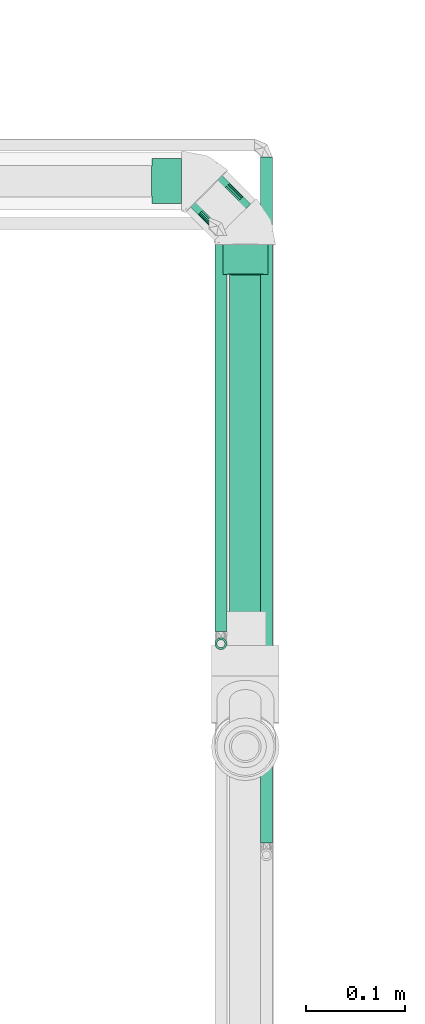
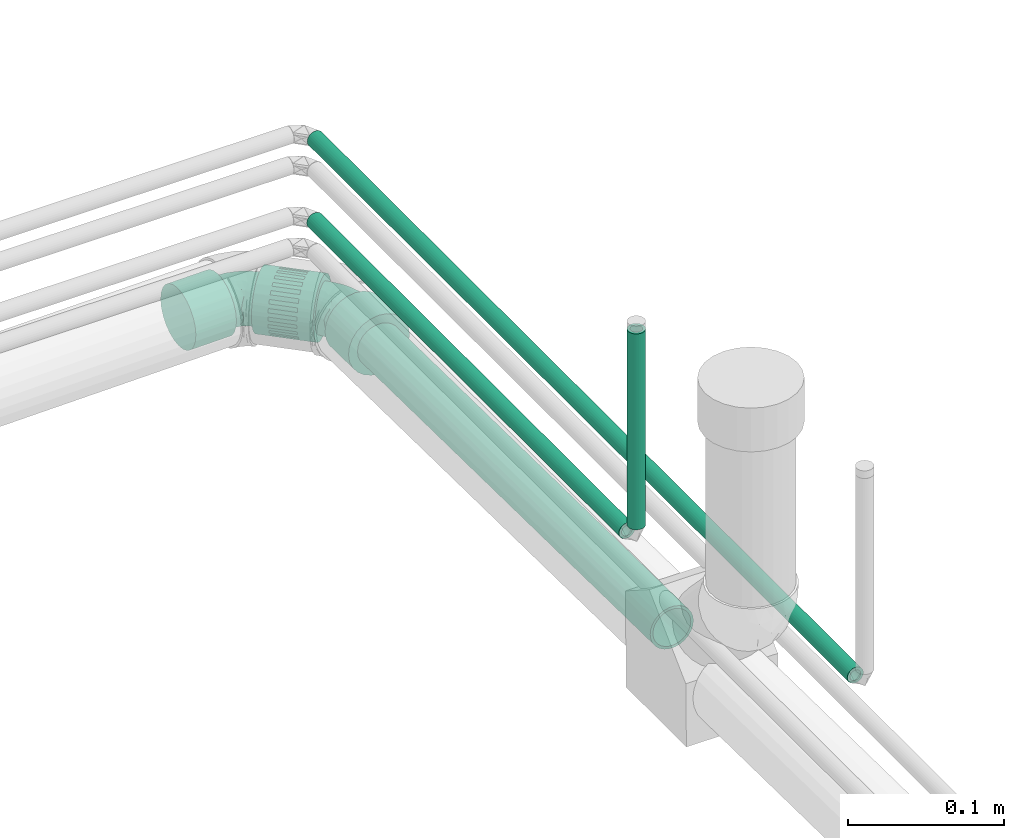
# One storey, part 50 of 108: 4 flow segments, 2 flow fittings.
"""IFC2X3 building model written with IfcOpenShell, lengths in millimetres."""

import ifcopenshell
import ifcopenshell.guid

model = None  # the IFC model being written
_history = None  # IfcOwnerHistory: only IFC2X3 demands one
_inside = {}  # id of a spatial element -> (the spatial element, [elements in it])
_under = {}  # id of a project, library or spatial element -> (it, [spatial elements below it])
_declared = {}  # id of a project -> (the project, [libraries it declares])
_typed = {}  # id of a type object -> (the type object, [elements of that type])
_made_of = {}  # id of a material, layer set ... -> (it, [elements and type objects made of it])


def new_model(schema):
    """Start an empty IFC model of exactly this schema.

    Asked for "IFC4X3", IfcOpenShell would pick the latest addendum, in which some entities
    have other attributes; the version numbers below select the first issue.
    IFC2X3 requires an IfcOwnerHistory on every rooted entity: one is made here for all.
    """
    global model, _history
    if schema == "IFC4X3":
        model = ifcopenshell.file(schema_version=(4, 3, 0, 0))
    else:
        model = ifcopenshell.file(schema=schema)
    _inside.clear()
    _under.clear()
    _declared.clear()
    _typed.clear()
    _made_of.clear()
    _history = None
    if model.schema == "IFC2X3":
        org = make("IfcOrganization", Name="unknown")
        user = make(
            "IfcPersonAndOrganization",
            ThePerson=make("IfcPerson", FamilyName="unknown"),
            TheOrganization=org,
        )
        app = make(
            "IfcApplication",
            ApplicationDeveloper=org,
            Version="unknown",
            ApplicationFullName="unknown",
            ApplicationIdentifier="unknown",
        )
        _history = make(
            "IfcOwnerHistory",
            OwningUser=user,
            OwningApplication=app,
            ChangeAction="ADDED",
            CreationDate=0,
        )
    return model


def make(cls, **values):
    """One entity of the class cls with the attributes given. An attribute that is None is left unset."""
    return model.create_entity(
        cls, **{name: value for name, value in values.items() if value is not None}
    )


def entity(cls, *values):
    """Any entity or typed value of the class cls, its attributes in the order of the schema. None: left unset."""
    e = model.create_entity(cls)
    for i, value in enumerate(values):
        if value is not None:
            e[i] = value
    return e


def rooted(cls, **values):
    """An entity with a GlobalId (a new one), such as an element, a storey or a relation."""
    return make(cls, GlobalId=ifcopenshell.guid.new(), OwnerHistory=_history, **values)


def si_unit(unit_type, name, prefix=None):
    """IfcSIUnit, for example si_unit("LENGTHUNIT", "METRE", prefix="MILLI")."""
    return make("IfcSIUnit", UnitType=unit_type, Prefix=prefix, Name=name)


def converted_unit(unit_type, name, factor, base, dimensions=None, offset=None):
    """IfcConversionBasedUnit, such as the inch: factor (a typed value) times the base unit."""
    return make(
        "IfcConversionBasedUnit"
        if offset is None
        else "IfcConversionBasedUnitWithOffset",
        ConversionOffset=offset,
        Dimensions=None
        if dimensions is None
        else entity("IfcDimensionalExponents", *dimensions),
        UnitType=unit_type,
        Name=name,
        ConversionFactor=make(
            "IfcMeasureWithUnit", ValueComponent=factor, UnitComponent=base
        ),
    )


def derived_unit(unit_type, elements):
    """IfcDerivedUnit: a product of units, each with its exponent."""
    return make(
        "IfcDerivedUnit",
        Elements=[
            make("IfcDerivedUnitElement", Unit=unit, Exponent=power)
            for unit, power in elements
        ],
        UnitType=unit_type,
    )


def assignment(units):
    """IfcUnitAssignment: the units of a project."""
    return None if units is None else make("IfcUnitAssignment", Units=units)


def point(xyz):
    """IfcCartesianPoint."""
    return None if xyz is None else make("IfcCartesianPoint", Coordinates=xyz)


def direction(xyz):
    """IfcDirection."""
    return None if xyz is None else make("IfcDirection", DirectionRatios=xyz)


def frame(location, z_axis=None, x_axis=None):
    """IfcAxis2Placement3D, a coordinate frame: its origin and axes. An axis left out is left unset."""
    return make(
        "IfcAxis2Placement3D",
        Location=point(location),
        Axis=direction(z_axis),
        RefDirection=direction(x_axis),
    )


def frame_2d(location, x_axis=None):
    """IfcAxis2Placement2D, a coordinate frame in the plane: its origin and x axis."""
    return make(
        "IfcAxis2Placement2D", Location=point(location), RefDirection=direction(x_axis)
    )


def origin_with_axes():
    """The frame at (0, 0, 0) with the z axis (0, 0, 1) and the x axis (1, 0, 0) written out."""
    return frame((0.0, 0.0, 0.0), z_axis=(0.0, 0.0, 1.0), x_axis=(1.0, 0.0, 0.0))


def origin_2d_with_axis():
    """The frame at (0, 0) in the plane with the x axis (1, 0) written out."""
    return frame_2d((0.0, 0.0), x_axis=(1.0, 0.0))


def place(relative_to, where):
    """IfcLocalPlacement: puts the frame where relative to a parent placement (None: the world)."""
    return make(
        "IfcLocalPlacement", PlacementRelTo=relative_to, RelativePlacement=where
    )


def context(
    kind, dimensions, precision=None, world=None, true_north=None, identifier=None
):
    """IfcGeometricRepresentationContext, for example the 3D "Model" context."""
    return make(
        "IfcGeometricRepresentationContext",
        ContextIdentifier=identifier,
        ContextType=kind,
        CoordinateSpaceDimension=dimensions,
        Precision=precision,
        WorldCoordinateSystem=world,
        TrueNorth=true_north,
    )


def subcontext(parent, identifier, kind, view, scale=None):
    """IfcGeometricRepresentationSubContext, for example "Body" below "Model"."""
    return make(
        "IfcGeometricRepresentationSubContext",
        ContextIdentifier=identifier,
        ContextType=kind,
        ParentContext=parent,
        TargetScale=scale,
        TargetView=view,
    )


def project(units=None, contexts=None):
    """IfcProject with its units and contexts."""
    return rooted(
        "IfcProject",
        Name="project",
        RepresentationContexts=contexts,
        UnitsInContext=assignment(units),
    )


def spatial(cls, under=None, at=None, **own):
    """A site, building, storey or space (cls), placed at a placement, below another one or the project."""
    s = rooted(cls, ObjectPlacement=at, **own)
    if under is not None:
        _under.setdefault(under.id(), (under, []))[1].append(s)
    return s


def profile(cls, at=None, kind="AREA", **sizes):
    """A parametric profile (cls). Its sizes go by their IFC names, for example OverallWidth=200.0."""
    return make(cls, ProfileType=kind, Position=at, **sizes)


def hollow_circle(**sizes):
    """IfcCircleHollowProfileDef."""
    return profile("IfcCircleHollowProfileDef", **sizes)


def extrude(swept, where, along, depth):
    """IfcExtrudedAreaSolid: the profile swept, set in the frame where, extruded along a direction by depth."""
    return make(
        "IfcExtrudedAreaSolid",
        SweptArea=swept,
        Position=where,
        ExtrudedDirection=direction(along),
        Depth=depth,
    )


def faces_of(points, faces, orient=None, outer=None):
    """IfcFace entities. A face is a list of loops; a loop is a list of indices into points, from 0.

    orient and outer hold one flag for each loop. By default every Orientation is true, the
    first loop of a face is its IfcFaceOuterBound and the others are IfcFaceBound.
    """
    made = []
    for i, loops in enumerate(faces):
        bounds = []
        for j, loop in enumerate(loops):
            is_outer = j == 0 if outer is None else outer[i][j]
            bounds.append(
                make(
                    "IfcFaceOuterBound" if is_outer else "IfcFaceBound",
                    Bound=make("IfcPolyLoop", Polygon=[points[k] for k in loop]),
                    Orientation=True if orient is None else orient[i][j],
                )
            )
        made.append(make("IfcFace", Bounds=bounds))
    return made


def open_shell(faces, orient=None, outer=None):
    """The faces of one IfcOpenShell. surface_model builds it on its shared points."""
    return ("IfcOpenShell", faces, orient, outer)


def surface_model(cls, points, shells):
    """IfcFaceBasedSurfaceModel or IfcShellBasedSurfaceModel (cls): surfaces that need not close."""
    shared = [point(p) for p in points]
    made = [make(c, CfsFaces=faces_of(shared, fs, o, b)) for c, fs, o, b in shells]
    if cls == "IfcFaceBasedSurfaceModel":
        return make(cls, FbsmFaces=made)
    return make(cls, SbsmBoundary=made)


def shape(context_of_items, identifier, shape_type, items):
    """IfcShapeRepresentation: the items that make up one representation, for example the "Body"."""
    return make(
        "IfcShapeRepresentation",
        ContextOfItems=context_of_items,
        RepresentationIdentifier=identifier,
        RepresentationType=shape_type,
        Items=items,
    )


def source(mapping_origin, context_of_items, identifier, shape_type, items):
    """IfcRepresentationMap: a shape defined once, which mapped items show again and again."""
    return make(
        "IfcRepresentationMap",
        MappingOrigin=mapping_origin,
        MappedRepresentation=shape(context_of_items, identifier, shape_type, items),
    )


def transform(
    local_origin,
    x_axis=None,
    y_axis=None,
    z_axis=None,
    scale=None,
    scale2=None,
    scale3=None,
    uniform=True,
):
    """IfcCartesianTransformationOperator3D, or its non-uniform kind. x_axis, y_axis, z_axis: its Axis1, 2, 3."""
    if uniform:
        return make(
            "IfcCartesianTransformationOperator3D",
            Axis1=direction(x_axis),
            Axis2=direction(y_axis),
            LocalOrigin=point(local_origin),
            Scale=scale,
            Axis3=direction(z_axis),
        )
    return make(
        "IfcCartesianTransformationOperator3DnonUniform",
        Axis1=direction(x_axis),
        Axis2=direction(y_axis),
        LocalOrigin=point(local_origin),
        Scale=scale,
        Axis3=direction(z_axis),
        Scale2=scale2,
        Scale3=scale3,
    )


def mapped(mapping_source, mapping_target):
    """IfcMappedItem: shows the shape of a source again, moved by a transform."""
    return make(
        "IfcMappedItem", MappingSource=mapping_source, MappingTarget=mapping_target
    )


def made_of(thing, what):
    """Note that an element or type object is made of a material, layer set ...; save() writes the relation."""
    if what is not None:
        _made_of.setdefault(what.id(), (what, []))[1].append(thing)
    return thing


def type_object(cls, material=None, **own):
    """A type object (cls), such as IfcWallType, which elements share."""
    return made_of(rooted(cls, **own), material)


def element(
    cls,
    number,
    at=None,
    inside=None,
    cuts=None,
    type_object=None,
    material=None,
    context=None,
    identifier="Body",
    shape_type=None,
    held_by="IfcProductDefinitionShape",
    body=None,
    shapes=None,
    **own,
):
    """One element of the class cls, such as IfcWall. Its Tag is "e" and its number.

    at: its placement. inside: the storey or other place that contains it. cuts: it is an
    opening in that element (IfcRelVoidsElement). A single representation is given by context,
    identifier, shape_type and body (its items); several are given by shapes. held_by: the class
    of the entity that holds the representations. save() writes the other relations.
    """
    e = rooted(cls, Tag="e%d" % number, ObjectPlacement=at, **own)
    if body is not None:
        shapes = [shape(context, identifier, shape_type, body)]
    if shapes is not None:
        e.Representation = make(held_by, Representations=shapes)
    if inside is not None:
        _inside.setdefault(inside.id(), (inside, []))[1].append(e)
    if cuts is not None:
        rooted(
            "IfcRelVoidsElement", RelatingBuildingElement=cuts, RelatedOpeningElement=e
        )
    if type_object is not None:
        _typed.setdefault(type_object.id(), (type_object, []))[1].append(e)
    return made_of(e, material)


def aggregate(whole, parts):
    """IfcRelAggregates: a whole, such as a stair, and the parts it consists of."""
    return rooted("IfcRelAggregates", RelatingObject=whole, RelatedObjects=parts)


def save(model, path):
    """Write the relations noted so far, then the file.

    IfcRelAggregates (storeys below a building ...), IfcRelContainedInSpatialStructure (elements
    in a storey), IfcRelDefinesByType, IfcRelAssociatesMaterial and IfcRelDeclares: one each for
    every whole, place, type object, material and project.
    """
    for whole, parts in _under.values():
        aggregate(whole, parts)
    for where, things in _inside.values():
        rooted(
            "IfcRelContainedInSpatialStructure",
            RelatedElements=things,
            RelatingStructure=where,
        )
    for kind, things in _typed.values():
        rooted("IfcRelDefinesByType", RelatedObjects=things, RelatingType=kind)
    for what, things in _made_of.values():
        rooted("IfcRelAssociatesMaterial", RelatedObjects=things, RelatingMaterial=what)
    for by, libraries in _declared.values():
        rooted("IfcRelDeclares", RelatingContext=by, RelatedDefinitions=libraries)
    model.write(path)


model = new_model("IFC2X3")

# Units and contexts
model_context = context("Model", 3, precision=0.01, world=frame((0.0, 4.29681676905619e-09, 0.0)), true_north=direction((4.01073788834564e-13, 1.0)))
plan_context = context("Plan", 3, precision=0.01, world=frame((0.0, 4.29681676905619e-09, 0.0)), true_north=direction((4.01073788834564e-13, 1.0)))
body_context = subcontext(model_context, "Body", "Model", "MODEL_VIEW")
ifc_project = project(units=[converted_unit("PLANEANGLEUNIT", "DEGREE", entity("IfcPositiveLengthMeasure", 0.0174532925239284), si_unit("PLANEANGLEUNIT", "RADIAN"), dimensions=[0, 0, 0, 0, 0, 0, 0]), si_unit("AREAUNIT", "SQUARE_METRE"), si_unit("LENGTHUNIT", "METRE", prefix="MILLI"), si_unit("MASSUNIT", "GRAM", prefix="KILO"), si_unit("POWERUNIT", "WATT"), si_unit("PRESSUREUNIT", "PASCAL", prefix="KILO"), si_unit("FORCEUNIT", "NEWTON", prefix="KILO"), si_unit("ELECTRICVOLTAGEUNIT", "VOLT"), si_unit("ELECTRICCURRENTUNIT", "AMPERE"), si_unit("THERMODYNAMICTEMPERATUREUNIT", "DEGREE_CELSIUS"), si_unit("TIMEUNIT", "SECOND"), si_unit("VOLUMEUNIT", "CUBIC_METRE"), derived_unit("LINEARVELOCITYUNIT", [(si_unit("LENGTHUNIT", "METRE"), 1), (si_unit("TIMEUNIT", "SECOND"), -1)]), derived_unit("VOLUMETRICFLOWRATEUNIT", [(si_unit("VOLUMEUNIT", "CUBIC_METRE"), 1), (si_unit("TIMEUNIT", "SECOND"), -1)]), derived_unit("THERMALTRANSMITTANCEUNIT", [(si_unit("POWERUNIT", "WATT"), 1), (si_unit("THERMODYNAMICTEMPERATUREUNIT", "KELVIN"), -1), (si_unit("AREAUNIT", "SQUARE_METRE"), -1)]), derived_unit("SOUNDPRESSUREUNIT", [(si_unit("PRESSUREUNIT", "PASCAL"), 1)])], contexts=[model_context, plan_context])

# Site, building, storey
site_placement = place(None, frame((0.0, -4.29681676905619e-09, 0.0), z_axis=(0.0, 0.0, 1.0), x_axis=(1.0, 0.0, 0.0)))
site = spatial("IfcSite", under=ifc_project, at=site_placement, CompositionType="ELEMENT")
building_placement = place(site_placement, frame((0.0, 4.29681676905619e-09, 0.0), z_axis=(0.0, 0.0, 1.0), x_axis=(1.0, 0.0, 0.0)))
building = spatial("IfcBuilding", under=site, at=building_placement, Name="mc-building", CompositionType="ELEMENT")
storey_placement = place(building_placement, frame((0.0, 0.0, 210200.0), z_axis=(0.0, 0.0, 1.0), x_axis=(1.0, 0.0, 0.0)))
storey = spatial("IfcBuildingStorey", under=building, at=storey_placement, Name="Nivå F - 0,7 m", CompositionType="ELEMENT", Elevation=210200.0)

# Flow fittings
pipe_fitting_type = type_object("IfcPipeFittingType", Name="magi_sewer_bend_001", PredefinedType="BEND")
shared_shape_1 = source(origin_with_axes(), body_context, "Body", "SurfaceModel", [
    surface_model("IfcShellBasedSurfaceModel", [(-44.578, -11.3, -19.57217), (-44.578, 5.84931, -21.82992), (-44.578, -5.84931, -21.82992), (-44.578, -21.82992, -5.84931), (-44.578, -15.98061, -15.98061), (-44.578, -22.6, 0.0), (-44.578, -19.57217, -11.3), (-44.578, 15.98061, -15.98061), (-44.578, 0.0, -22.6), (-44.578, 11.3, -19.57217), (-44.578, 21.82992, -5.84931), (-44.578, 19.57217, -11.3), (-44.578, 22.6, 0.0), (-44.578, -21.82992, 5.84931), (-44.578, -19.57217, 11.3), (-44.578, -15.98061, 15.98061), (-44.578, -11.3, 19.57217), (-44.578, -5.84931, 21.82992), (-44.578, 0.0, 22.6), (-44.578, 15.98061, 15.98061), (-44.578, 21.82992, 5.84931), (-44.578, 19.57217, 11.3), (-44.578, 5.84931, 21.82992), (-44.578, 11.3, 19.57217), (-14.578, 0.0, 22.6), (-14.578, -5.84931, 21.82992), (-14.578, -11.3, 19.57217), (-14.578, -15.98061, 15.98061), (-14.578, -19.57217, 11.3), (-14.578, -21.82992, 5.84931), (-14.578, 22.6, 0.0), (-14.578, 21.82992, -5.84931), (-14.578, 5.84931, 21.82992), (-14.578, 15.98061, 15.98061), (-14.578, 11.3, 19.57217), (-14.578, 19.57217, 11.3), (-14.578, 21.82992, 5.84931), (-14.578, -11.3, -19.57217), (-14.578, -22.6, 0.0), (-14.578, -21.82992, -5.84931), (-14.578, -15.98061, -15.98061), (-14.578, -19.57217, -11.3), (-14.578, -5.84931, -21.82992), (-14.578, 15.98061, -15.98061), (-14.578, 19.57217, -11.3), (-14.578, 11.3, -19.57217), (-14.578, 5.84931, -21.82992), (-14.578, 0.0, -22.6), (17.68688, 45.35904, 11.3), (17.68688, 45.35904, -11.3), (16.09059, 46.95569, 5.84931), (20.22621, 42.81914, 15.98061), (23.53554, 39.50908, 19.57217), (27.38932, 35.65442, 21.82992), (31.52494, 31.51787, 22.6), (15.54613, 47.50028, 0.0), (16.09059, 46.95569, -5.84931), (20.22621, 42.81914, -15.98061), (27.38932, 35.65442, -21.82992), (23.53554, 39.50908, -19.57217), (35.66057, 27.38132, 21.82992), (31.52494, 31.51787, -22.6), (47.50376, 15.53546, 0.0), (39.51436, 23.52667, 19.57217), (45.36301, 17.6767, 11.3), (42.82368, 20.2166, 15.98061), (46.9593, 16.08005, 5.84931), (42.82368, 20.2166, -15.98061), (39.51436, 23.52667, -19.57217), (35.66057, 27.38132, -21.82992), (46.9593, 16.08005, -5.84931), (45.36301, 17.6767, -11.3), (26.28818, -5.67536, 0.0), (25.74372, -5.13077, 5.84931), (24.14742, -3.53412, 11.3), (21.60809, -0.99422, 15.98061), (18.29877, 2.31584, 19.57217), (14.44498, 6.1705, 21.82992), (21.60809, -0.99422, -15.98061), (25.74372, -5.13077, -5.84931), (24.14742, -3.53412, -11.3), (14.44498, 6.1705, -21.82992), (18.29877, 2.31584, -19.57217), (10.30936, 10.30705, -22.6), (-0.98937, 21.60832, -15.98061), (-3.5287, 24.14822, -11.3), (6.17374, 14.4436, 21.82992), (-0.98937, 21.60832, 15.98061), (2.31995, 18.29825, 19.57217), (-3.5287, 24.14822, 11.3), (-5.12499, 25.74487, 5.84931), (6.17374, 14.4436, -21.82992), (2.31995, 18.29825, -19.57217), (-5.12499, 25.74487, -5.84931), (-5.66946, 26.28945, 0.0), (10.30936, 10.30705, 22.6), (-14.578, 0.0, -17.6), (-14.578, -12.44508, -12.44508), (-14.578, 4.55522, -17.00029), (-14.578, 8.8, -15.24205), (-14.578, 15.24205, -8.8), (-14.578, -17.6, 0.0), (-14.578, 12.44508, -12.44508), (-14.578, -8.8, 15.24205), (-14.578, -8.8, -15.24205), (-14.578, -4.55522, -17.00029), (-14.578, -17.00029, -4.55522), (-14.578, -15.24205, -8.8), (-14.578, 17.00029, -4.55522), (-14.578, 17.00029, 4.55522), (-14.578, 17.6, 0.0), (-14.578, 12.44508, 12.44508), (-14.578, 15.24205, 8.8), (-14.578, 4.55522, 17.00029), (-14.578, 8.8, 15.24205), (-14.578, -15.24205, 8.8), (-14.578, -12.44508, 12.44508), (-14.578, -17.00029, 4.55522), (-14.578, -4.55522, 17.00029), (-14.578, 0.0, 17.6), (1.51035, 19.10804, -12.44508), (10.30936, 10.30705, -17.6), (7.0887, 13.52843, -17.00029), (4.08752, 16.53029, -15.24205), (-0.46718, 21.08601, -8.8), (-1.71031, 22.32942, -4.55522), (16.5312, 4.08381, -15.24205), (22.75304, -2.13943, 0.0), (19.10837, 1.50606, -12.44508), (13.53002, 7.08566, -17.00029), (21.08591, -0.47192, -8.8), (22.32904, -1.71532, -4.55522), (22.32904, -1.71532, 4.55522), (-1.71031, 22.32942, 4.55522), (1.51035, 19.10804, 12.44508), (-0.46718, 21.08601, 8.8), (4.08752, 16.53029, 15.24205), (7.0887, 13.52843, 17.00029), (16.5312, 4.08381, 15.24205), (19.10837, 1.50606, 12.44508), (21.08591, -0.47192, 8.8), (10.30936, 10.30705, 17.6), (13.53002, 7.08566, 17.00029), (-2.13432, 22.75352, 0.0), (-6.97279, -6.45389, 16.08555), (-3.89234, -9.94722, 13.58094), (1.80712, -4.36347, 15.86386), (-5.68113, -13.46065, 10.30554), (13.53466, -5.50247, 10.30554), (-5.25116, -1.69462, 17.36685), (-6.76054, 7.32383, 16.45348), (-1.67352, 4.04088, 17.53813), (-8.81717, 2.43879, 17.49318), (0.52322, 10.58001, 16.42703), (3.18121, 8.32982, 17.34393), (4.48228, -10.82289, 9.80821), (9.49413, 0.36585, 16.08555), (-7.24911, 17.50368, 7.2307), (-7.75934, 14.76021, 11.10672), (-4.99836, 12.06902, 14.36862), (5.2039, -12.56531, 6.12562), (9.38837, -11.53595, 3.11184), (12.99665, -8.53788, 6.11218), (-4.47653, -15.59099, 0.0), (1.5169, -14.7959, 3.11184), (-4.95787, -16.41663, 3.2064), (15.11314, -8.10426, 3.2064), (-7.0489, 18.85816, 3.69789), (-3.15453, -15.22686, 6.11218), (4.91169, 2.5143, 17.36685), (9.78557, -4.28255, 13.58094), (5.62494, -13.58197, 0.0), (14.18899, -7.8607, 0.0), (-7.84369, 18.93934, 0.0), (2.95379, -7.13222, 14.03556), (-5.25116, -1.69462, -17.36685), (5.2039, -12.56531, -6.12562), (1.5169, -14.7959, -3.11184), (-3.15453, -15.22686, -6.11218), (4.91169, 2.5143, -17.36685), (-7.85037, 7.1121, -16.42703), (-8.13912, 3.64153, -17.34393), (-4.94858, 15.92429, -11.10672), (9.78557, -4.28255, -13.58094), (-7.24911, 17.50368, -7.2307), (12.99665, -8.53788, -6.11218), (-8.34836, 18.31999, -3.69789), (-0.39719, 9.9592, -16.45348), (-4.95787, -16.41663, -3.2064), (4.48228, -10.82289, -9.80821), (13.53466, -5.50247, -10.30554), (-5.68113, -13.46065, -10.30554), (-3.89234, -9.94722, -13.58094), (2.95379, -7.13222, -14.03556), (-6.97279, -6.45389, -16.08555), (1.80712, -4.36347, -15.86386), (9.49413, 0.36585, -16.08555), (9.38837, -11.53595, -3.11184), (-1.67352, 4.04088, -17.53813), (-4.99836, 12.06902, -14.36862), (15.11314, -8.10426, -3.2064), (4.51109, 7.95865, -17.49318)], [open_shell([[[0, 1, 2]], [[3, 0, 4]], [[3, 5, 0]], [[3, 4, 6]], [[7, 0, 5]], [[2, 1, 8]], [[0, 9, 1]], [[7, 10, 11]], [[9, 0, 7]], [[7, 12, 10]], [[7, 5, 12]], [[13, 14, 15]], [[13, 15, 16]], [[16, 17, 18]], [[16, 18, 13]], [[13, 18, 19]], [[20, 19, 21]], [[19, 20, 12]], [[19, 22, 23]], [[19, 12, 13]], [[18, 22, 19]], [[13, 12, 5]], [[24, 25, 26]], [[24, 26, 27]], [[27, 28, 29]], [[27, 29, 24]], [[30, 24, 31]], [[32, 33, 34]], [[32, 24, 33]], [[35, 30, 36]], [[30, 35, 33]], [[24, 30, 33]], [[24, 29, 31]], [[37, 38, 39]], [[40, 39, 41]], [[37, 31, 29]], [[37, 39, 40]], [[31, 37, 42]], [[31, 43, 44]], [[43, 31, 45]], [[42, 46, 45]], [[45, 31, 42]], [[47, 46, 42]], [[37, 29, 38]], [[31, 10, 30]], [[44, 11, 31]], [[9, 43, 45]], [[43, 7, 44]], [[31, 11, 10]], [[10, 12, 30]], [[8, 1, 46]], [[1, 9, 45]], [[7, 43, 9]], [[7, 11, 44]], [[46, 1, 45]], [[46, 47, 8]], [[2, 42, 37]], [[40, 0, 37]], [[6, 41, 39]], [[40, 41, 4]], [[3, 39, 38]], [[42, 2, 8]], [[37, 0, 2]], [[40, 4, 0]], [[41, 6, 4]], [[3, 6, 39]], [[38, 5, 3]], [[42, 8, 47]], [[29, 13, 38]], [[28, 14, 29]], [[16, 27, 26]], [[28, 27, 15]], [[17, 26, 25]], [[29, 14, 13]], [[13, 5, 38]], [[17, 24, 18]], [[17, 16, 26]], [[15, 27, 16]], [[15, 14, 28]], [[24, 17, 25]], [[22, 32, 34]], [[33, 23, 34]], [[21, 35, 36]], [[33, 35, 19]], [[20, 36, 30]], [[34, 23, 22]], [[22, 18, 32]], [[19, 23, 33]], [[35, 21, 19]], [[20, 21, 36]], [[30, 12, 20]], [[32, 18, 24]], [[48, 49, 50]], [[51, 49, 48]], [[52, 53, 54]], [[52, 49, 51]], [[49, 52, 54]], [[55, 49, 56]], [[55, 50, 49]], [[57, 58, 59]], [[60, 57, 49]], [[61, 58, 57]], [[60, 49, 54]], [[62, 60, 63]], [[64, 63, 65]], [[64, 66, 62]], [[64, 62, 63]], [[60, 62, 67]], [[61, 68, 69]], [[68, 61, 67]], [[67, 70, 71]], [[61, 57, 67]], [[62, 70, 67]], [[67, 57, 60]], [[72, 73, 74]], [[72, 74, 75]], [[75, 76, 77]], [[75, 77, 72]], [[72, 77, 78]], [[79, 78, 80]], [[79, 72, 78]], [[78, 81, 82]], [[81, 78, 83]], [[78, 84, 83]], [[78, 77, 85]], [[77, 86, 87]], [[87, 86, 88]], [[87, 89, 90]], [[90, 77, 87]], [[77, 90, 85]], [[91, 84, 92]], [[83, 84, 91]], [[84, 78, 85]], [[90, 93, 85]], [[90, 94, 93]], [[86, 77, 95]], [[91, 58, 83]], [[92, 59, 91]], [[49, 84, 85]], [[84, 57, 92]], [[91, 59, 58]], [[58, 61, 83]], [[55, 56, 93]], [[56, 49, 85]], [[57, 84, 49]], [[57, 59, 92]], [[93, 56, 85]], [[93, 94, 55]], [[50, 90, 89]], [[87, 48, 89]], [[52, 88, 86]], [[87, 88, 51]], [[53, 86, 95]], [[90, 50, 55]], [[89, 48, 50]], [[87, 51, 48]], [[88, 52, 51]], [[53, 52, 86]], [[95, 54, 53]], [[90, 55, 94]], [[77, 60, 95]], [[76, 63, 77]], [[64, 75, 74]], [[76, 75, 65]], [[66, 74, 73]], [[77, 63, 60]], [[60, 54, 95]], [[66, 72, 62]], [[66, 64, 74]], [[65, 75, 64]], [[65, 63, 76]], [[72, 66, 73]], [[70, 79, 80]], [[78, 71, 80]], [[68, 82, 81]], [[78, 82, 67]], [[69, 81, 83]], [[80, 71, 70]], [[70, 62, 79]], [[67, 71, 78]], [[82, 68, 67]], [[69, 68, 81]], [[83, 61, 69]], [[79, 62, 72]], [[96, 97, 98]], [[99, 98, 100]], [[100, 98, 101]], [[102, 99, 100]], [[100, 101, 103]], [[104, 97, 96]], [[96, 105, 104]], [[106, 101, 107]], [[97, 107, 101]], [[98, 97, 101]], [[103, 108, 100]], [[109, 110, 111]], [[112, 109, 111]], [[113, 114, 111]], [[110, 113, 111]], [[103, 113, 110]], [[115, 116, 117]], [[103, 117, 116]], [[118, 119, 103]], [[103, 101, 117]], [[103, 119, 113]], [[110, 108, 103]], [[120, 121, 122]], [[120, 122, 123]], [[120, 124, 125]], [[121, 120, 126]], [[126, 120, 125]], [[126, 127, 128]], [[126, 129, 121]], [[130, 127, 131]], [[127, 130, 128]], [[125, 127, 126]], [[125, 132, 127]], [[125, 133, 134]], [[134, 133, 135]], [[134, 136, 137]], [[138, 125, 134]], [[138, 134, 137]], [[132, 139, 140]], [[139, 132, 138]], [[138, 141, 142]], [[132, 125, 138]], [[137, 141, 138]], [[125, 143, 133]], [[144, 145, 146]], [[116, 147, 145]], [[103, 116, 145]], [[140, 139, 148]], [[119, 118, 149]], [[118, 103, 144]], [[114, 113, 150]], [[151, 152, 149]], [[119, 152, 113]], [[137, 153, 154]], [[145, 147, 155]], [[138, 142, 156]], [[157, 112, 158]], [[159, 111, 114]], [[160, 161, 162]], [[163, 164, 165]], [[166, 162, 161]], [[157, 167, 109]], [[115, 117, 168]], [[110, 109, 167]], [[109, 112, 157]], [[116, 115, 147]], [[150, 159, 114]], [[168, 160, 155]], [[101, 163, 165]], [[136, 134, 159]], [[141, 154, 169]], [[139, 138, 170]], [[135, 133, 157]], [[169, 142, 141]], [[164, 163, 171]], [[139, 170, 148]], [[151, 154, 153]], [[170, 138, 156]], [[115, 168, 147]], [[172, 166, 161]], [[132, 166, 127]], [[152, 150, 113]], [[167, 157, 133]], [[173, 167, 143]], [[148, 155, 162]], [[145, 174, 146]], [[146, 169, 149]], [[137, 136, 153]], [[146, 156, 169]], [[157, 158, 135]], [[151, 149, 169]], [[134, 135, 158]], [[159, 150, 153]], [[144, 149, 118]], [[112, 111, 158]], [[132, 140, 162]], [[155, 147, 168]], [[174, 155, 170]], [[155, 148, 170]], [[162, 140, 148]], [[111, 159, 158]], [[134, 158, 159]], [[159, 153, 136]], [[151, 153, 150]], [[145, 144, 103]], [[149, 144, 146]], [[169, 156, 142]], [[170, 156, 146]], [[169, 154, 151]], [[141, 137, 154]], [[149, 152, 119]], [[150, 152, 151]], [[164, 160, 168]], [[162, 155, 160]], [[164, 168, 165]], [[161, 164, 171]], [[164, 161, 160]], [[172, 161, 171]], [[168, 117, 165]], [[101, 165, 117]], [[127, 166, 172]], [[132, 162, 166]], [[155, 174, 145]], [[170, 146, 174]], [[143, 167, 133]], [[167, 173, 110]], [[105, 96, 175]], [[176, 177, 178]], [[121, 129, 179]], [[180, 181, 98]], [[100, 182, 102]], [[126, 128, 183]], [[184, 182, 100]], [[130, 131, 185]], [[108, 186, 184]], [[123, 122, 187]], [[188, 178, 177]], [[99, 180, 98]], [[163, 188, 177]], [[189, 190, 185]], [[106, 188, 101]], [[191, 97, 192]], [[97, 104, 192]], [[193, 189, 192]], [[106, 107, 178]], [[97, 191, 107]], [[194, 104, 105]], [[191, 189, 178]], [[195, 175, 179]], [[196, 179, 129]], [[110, 173, 186]], [[197, 172, 171]], [[143, 125, 186]], [[198, 179, 175]], [[120, 123, 199]], [[184, 100, 108]], [[124, 182, 184]], [[194, 192, 104]], [[187, 199, 123]], [[181, 175, 96]], [[199, 187, 180]], [[102, 199, 99]], [[172, 197, 200]], [[121, 201, 122]], [[196, 129, 126]], [[185, 176, 189]], [[128, 130, 190]], [[183, 195, 196]], [[183, 190, 189]], [[195, 194, 175]], [[127, 172, 200]], [[124, 120, 182]], [[201, 187, 122]], [[190, 183, 128]], [[183, 193, 195]], [[201, 179, 198]], [[198, 181, 180]], [[125, 184, 186]], [[130, 185, 190]], [[125, 124, 184]], [[189, 191, 192]], [[178, 107, 191]], [[120, 199, 182]], [[102, 182, 199]], [[199, 180, 99]], [[198, 180, 187]], [[175, 194, 105]], [[192, 194, 195]], [[183, 196, 126]], [[179, 196, 195]], [[175, 181, 198]], [[96, 98, 181]], [[179, 201, 121]], [[187, 201, 198]], [[197, 176, 185]], [[178, 189, 176]], [[197, 185, 200]], [[177, 197, 171]], [[197, 177, 176]], [[163, 177, 171]], [[185, 131, 200]], [[127, 200, 131]], [[101, 188, 163]], [[106, 178, 188]], [[189, 193, 183]], [[192, 195, 193]], [[110, 186, 108]], [[186, 173, 143]]])]),
])
for number, where, z_axis, x_axis, name in (
    (1, (331071.68315, 462127.61957, 226.227660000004), (-0.0166640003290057, 0.00634400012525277, 0.999841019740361), (-0.707013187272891, 0.707013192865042, -0.016269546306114), "magi_sewer_bend_001"),
    (2, (331121.18062, 462078.12209, 227.366669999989), (-0.00634400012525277, 0.0166640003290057, 0.999841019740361), (2.11432871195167e-09, 0.99986114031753, -0.0166643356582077), "magi_sewer_bend_001"),
):
    element("IfcFlowFitting", number, at=place(storey_placement, frame(where, z_axis=z_axis, x_axis=x_axis)), inside=storey, type_object=pipe_fitting_type, Name=name, context=body_context, shape_type="MappedRepresentation", body=[
        mapped(shared_shape_1, transform((0.0, 0.0, 0.0), scale=1.0)),
    ])

# Flow segments
pipe_segment_type_1 = type_object("IfcPipeSegmentType", Name="PP avløpsrør", PredefinedType="RIGIDSEGMENT")
shared_shape_2 = source(origin_with_axes(), body_context, "Body", "SweptSolid", [
    extrude(hollow_circle(Radius=16.0, WallThickness=2.0, at=origin_2d_with_axis()), frame((0.0, 0.0, 0.0), z_axis=(1.0, 0.0, 0.0), x_axis=(0.0, 1.0, 0.0)), (0.0, 0.0, 1.0), 404.8),
])
flow_segment_1_placement = place(storey_placement, frame((331121.18062, 462063.54611, 227.609599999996), z_axis=(0.0, 0.0166640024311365, 0.999861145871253), x_axis=(0.0, -0.999861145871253, 0.0166640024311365)))
element("IfcFlowSegment", 3, at=flow_segment_1_placement, inside=storey, type_object=pipe_segment_type_1, Name="PP avløpsrør", context=body_context, shape_type="MappedRepresentation", body=[
    mapped(shared_shape_2, transform((0.0, 0.0, 0.0), scale=1.0)),
])
pipe_segment_type_2 = type_object("IfcPipeSegmentType", Name="Kobberrør", PredefinedType="RIGIDSEGMENT")
shared_shape_3 = source(origin_with_axes(), body_context, "Body", "SweptSolid", [
    extrude(hollow_circle(Radius=6.0, WallThickness=2.0, at=origin_2d_with_axis()), frame((0.0, 0.0, 0.0), z_axis=(1.0, 0.0, 0.0), x_axis=(0.0, 1.0, 0.0)), (0.0, 0.0, 1.0), 399.5),
])
flow_segment_2_placement = place(storey_placement, frame((331096.4804, 462072.9926, 309.810120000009), z_axis=(0.0, 0.0, 1.0), x_axis=(0.0, -1.0, 0.0)))
element("IfcFlowSegment", 4, at=flow_segment_2_placement, inside=storey, type_object=pipe_segment_type_2, Name="Kobberrør", context=body_context, shape_type="MappedRepresentation", body=[
    mapped(shared_shape_3, transform((0.0, 0.0, 0.0), scale=1.0)),
])
shared_shape_4 = source(origin_with_axes(), body_context, "Body", "SweptSolid", [
    extrude(hollow_circle(Radius=6.0, WallThickness=2.0, at=origin_2d_with_axis()), frame((0.0, 0.0, 0.0), z_axis=(1.0, 0.0, 0.0), x_axis=(0.0, 1.0, 0.0)), (0.0, 0.0, 1.0), 691.1),
])
flow_segment_3_placement = place(storey_placement, frame((331142.38085, 462151.79632, 309.810120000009), z_axis=(0.0, 0.0, 1.0), x_axis=(0.0, -1.0, 0.0)))
element("IfcFlowSegment", 5, at=flow_segment_3_placement, inside=storey, type_object=pipe_segment_type_2, Name="Kobberrør", context=body_context, shape_type="MappedRepresentation", body=[
    mapped(shared_shape_4, transform((0.0, 0.0, 0.0), scale=1.0)),
])
shared_shape_5 = source(origin_with_axes(), body_context, "Body", "SweptSolid", [
    extrude(hollow_circle(Radius=6.0, WallThickness=2.0, at=origin_2d_with_axis()), frame((0.0, 0.0, 0.0), z_axis=(1.0, 0.0, 0.0), x_axis=(0.0, 1.0, 0.0)), (0.0, 0.0, 1.0), 153.0),
])
flow_segment_4_placement = place(storey_placement, frame((331096.4804, 461661.47018, 321.810120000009), z_axis=(1.0, 0.0, 0.0), x_axis=(0.0, 0.0, 1.0)))
element("IfcFlowSegment", 6, at=flow_segment_4_placement, inside=storey, type_object=pipe_segment_type_2, Name="Kobberrør", context=body_context, shape_type="MappedRepresentation", body=[
    mapped(shared_shape_5, transform((0.0, 0.0, 0.0), scale=1.0)),
])

save(model, "model.ifc")
